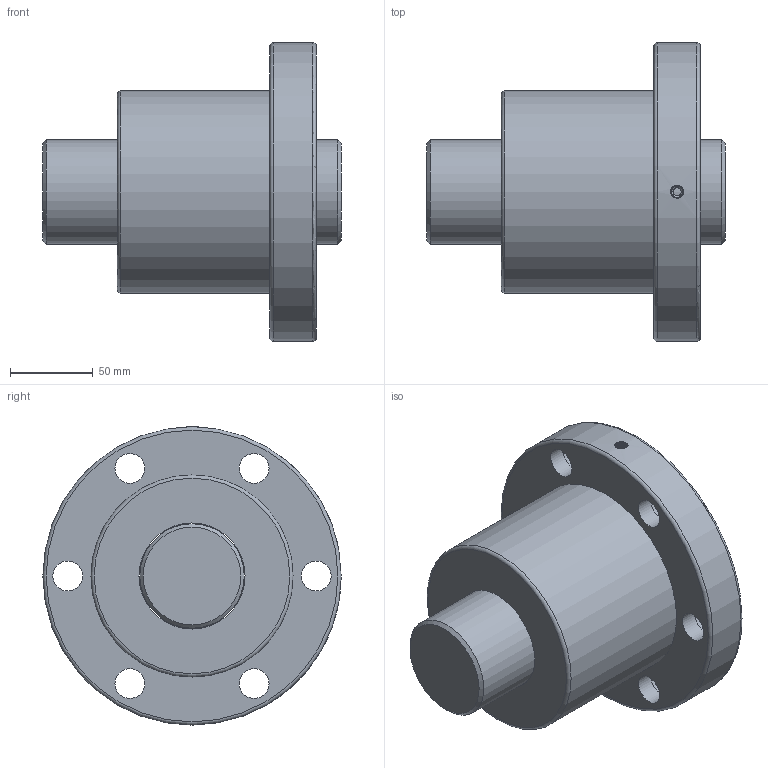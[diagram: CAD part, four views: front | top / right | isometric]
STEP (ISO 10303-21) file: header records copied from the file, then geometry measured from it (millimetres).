
FILE_DESCRIPTION(/* description */ ('Unknown','CAx-IF Rec.Pracs.---Representation and Presentation of Product Manufacturing Information (PMI)---4.0---2014-10-13','CAx-IF Rec.Pracs.---3D Tessellated Geometry---0.4---2014-09-14','2;1'),/* implementation_level */ '2;1');
FILE_NAME(/* name */ 'SFV06320-2.7',/* time_stamp */ '2020-12-08T11:19:03+08:00',/* author */ ('Unknown'),/* organization */ ('Unknown'),/* preprocessor_version */ 'ST-DEVELOPER v16.7',/* originating_system */ 'Solid Edge',/* authorisation */ 'Unknown');
FILE_SCHEMA (('AP242_MANAGED_MODEL_BASED_3D_ENGINEERING_MIM_LF { 1 0 10303 442 1 1 4 }'));
Length unit declared in the file: millimetre
Products named in the file (1): SFV06320-2.7
Bounding box: 180 x 180 x 180 mm (x, y, z)
Volume: 1883746.3 mm3; surface area: 174111 mm2
Topology: 2 solids, 2 shells, 46 faces, 102 edges, 64 vertices
Faces by surface type: cylinder 23, plane 15, cone 3, torus 3, bspline 2
Full cylindrical faces by diameter (mm): 5 x1, 6.917 x1, 18 x6, 26 x6, 63 x1, 64 x2, 82 x2, 122 x1, 180 x1
Entity records: 3236 total; most frequent: CARTESIAN_POINT 2276, DIRECTION 202, ORIENTED_EDGE 128, AXIS2_PLACEMENT_3D 102, EDGE_LOOP 93, FACE_BOUND 93, EDGE_CURVE 64, VERTEX_POINT 53
